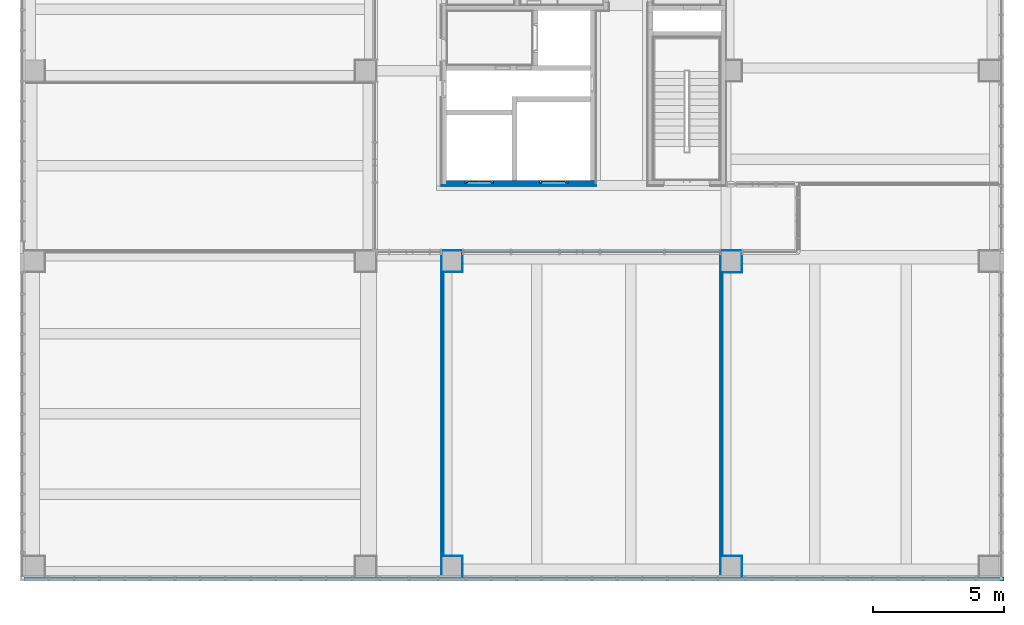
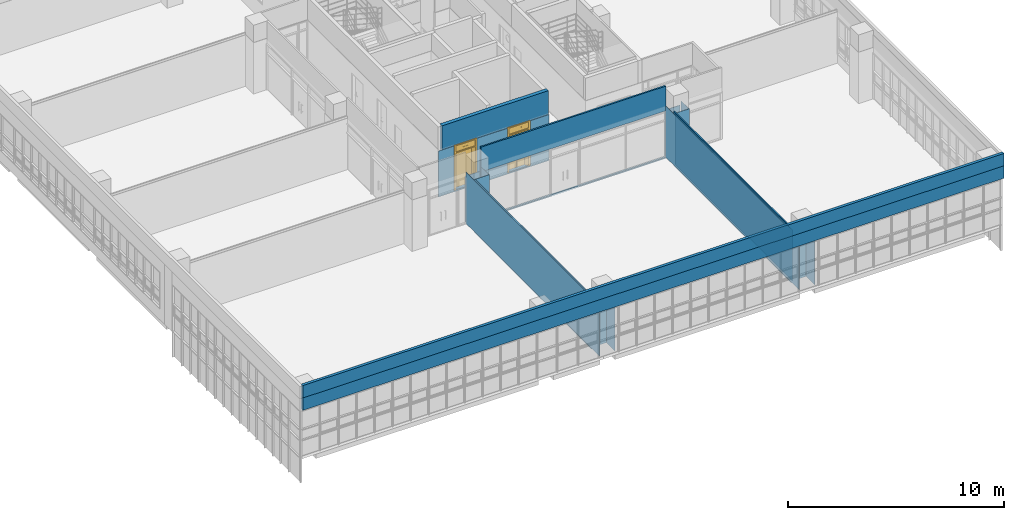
# One storey, part 44 of 81: 21 walls, 2 doors, 5 openings.
"""IFC2X3 building model written with IfcOpenShell, lengths in millimetres."""

from ifc_helpers import new_model, entity, si_unit, converted_unit, derived_unit, direction, frame, frame_2d, origin, place, context, subcontext, project, spatial, polyline, rectangle, extrude, clip, bounded_halfspace, faceted_brep, source, transform, mapped, material, material_list, layer, layer_set, layer_usage, type_object, type_shapes, element, fill, save


model = new_model("IFC2X3")

# Units and contexts
model_context = context("Model", 3, precision=0.01, world=origin(), true_north=direction((6.123031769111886e-17, 1.0)))
body_context = subcontext(model_context, "Body", "Model", "MODEL_VIEW")
ifc_project = project(units=[si_unit("LENGTHUNIT", "METRE", prefix="MILLI"), si_unit("AREAUNIT", "SQUARE_METRE"), si_unit("VOLUMEUNIT", "CUBIC_METRE"), converted_unit("PLANEANGLEUNIT", "DEGREE", entity("IfcRatioMeasure", 0.017453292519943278), si_unit("PLANEANGLEUNIT", "RADIAN"), dimensions=[0, 0, 0, 0, 0, 0, 0]), si_unit("MASSUNIT", "GRAM", prefix="KILO"), derived_unit("MASSDENSITYUNIT", [(si_unit("MASSUNIT", "GRAM", prefix="KILO"), 1), (si_unit("LENGTHUNIT", "METRE"), -3)]), derived_unit("MOMENTOFINERTIAUNIT", [(si_unit("LENGTHUNIT", "METRE"), 4)]), si_unit("TIMEUNIT", "SECOND"), si_unit("FREQUENCYUNIT", "HERTZ"), si_unit("THERMODYNAMICTEMPERATUREUNIT", "DEGREE_CELSIUS"), derived_unit("THERMALTRANSMITTANCEUNIT", [(si_unit("MASSUNIT", "GRAM", prefix="KILO"), 1), (si_unit("THERMODYNAMICTEMPERATUREUNIT", "KELVIN"), -1), (si_unit("TIMEUNIT", "SECOND"), -3)]), derived_unit("VOLUMETRICFLOWRATEUNIT", [(si_unit("LENGTHUNIT", "METRE"), 3), (si_unit("TIMEUNIT", "SECOND"), -1)]), derived_unit("MASSFLOWRATEUNIT", [(si_unit("MASSUNIT", "GRAM", prefix="KILO"), 1), (si_unit("TIMEUNIT", "SECOND"), -1)]), derived_unit("ROTATIONALFREQUENCYUNIT", [(si_unit("TIMEUNIT", "SECOND"), -1)]), si_unit("ELECTRICCURRENTUNIT", "AMPERE"), si_unit("ELECTRICVOLTAGEUNIT", "VOLT"), si_unit("POWERUNIT", "WATT"), si_unit("FORCEUNIT", "NEWTON", prefix="KILO"), si_unit("ILLUMINANCEUNIT", "LUX"), si_unit("LUMINOUSFLUXUNIT", "LUMEN"), si_unit("LUMINOUSINTENSITYUNIT", "CANDELA"), derived_unit("USERDEFINED", [(si_unit("MASSUNIT", "GRAM", prefix="KILO"), -1), (si_unit("LENGTHUNIT", "METRE"), -2), (si_unit("TIMEUNIT", "SECOND"), 3), (si_unit("LUMINOUSFLUXUNIT", "LUMEN"), 1)]), derived_unit("SOUNDPOWERUNIT", [(si_unit("MASSUNIT", "GRAM", prefix="KILO"), 1), (si_unit("LENGTHUNIT", "METRE"), 2), (si_unit("TIMEUNIT", "SECOND"), -3)]), derived_unit("SOUNDPRESSUREUNIT", [(si_unit("MASSUNIT", "GRAM", prefix="KILO"), 1), (si_unit("LENGTHUNIT", "METRE"), -1), (si_unit("TIMEUNIT", "SECOND"), -2)]), derived_unit("LINEARVELOCITYUNIT", [(si_unit("LENGTHUNIT", "METRE"), 1), (si_unit("TIMEUNIT", "SECOND"), -1)]), si_unit("PRESSUREUNIT", "PASCAL"), derived_unit("USERDEFINED", [(si_unit("LENGTHUNIT", "METRE"), -2), (si_unit("MASSUNIT", "GRAM", prefix="KILO"), 1), (si_unit("TIMEUNIT", "SECOND"), -2)]), derived_unit("LINEARFORCEUNIT", [(si_unit("MASSUNIT", "GRAM", prefix="KILO"), 1), (si_unit("LENGTHUNIT", "METRE"), 1), (si_unit("TIMEUNIT", "SECOND"), -2), (si_unit("LENGTHUNIT", "METRE"), -1)]), derived_unit("PLANARFORCEUNIT", [(si_unit("MASSUNIT", "GRAM", prefix="KILO"), 1), (si_unit("LENGTHUNIT", "METRE"), 1), (si_unit("TIMEUNIT", "SECOND"), -2), (si_unit("LENGTHUNIT", "METRE"), -2)])], contexts=[model_context])

# Site, building, storey
site_placement = place(None, frame((-14167.972527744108, -657.2125860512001, 0.0)))
site = spatial("IfcSite", under=ifc_project, at=site_placement, Name="Default", CompositionType="ELEMENT")
building_placement = place(site_placement, origin())
building = spatial("IfcBuilding", under=site, at=building_placement, Name="Sample Building", CompositionType="ELEMENT")
storey_placement = place(building_placement, frame((0.0, 0.0, 13400.0)))
storey = spatial("IfcBuildingStorey", under=building, at=storey_placement, Name="지상 4층", CompositionType="ELEMENT", Elevation=13400.00000000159)

# Wall, openings, doors
ifc_material_1 = material(Name="KBIMS-콘크리트")
ifc_layer_1 = layer(ifc_material_1, 200.0)
ifc_layer_set_1 = layer_set([ifc_layer_1], Name="기본 벽:WA111-철근콘크리트구조 벽 200mm_CW1")
ifc_layer_usage_1 = layer_usage(ifc_layer_set_1, "AXIS2", "NEGATIVE", 100.0)
wall_type_1 = type_object("IfcWallType", Name="기본 벽:WA111-철근콘크리트구조 벽 200mm_CW1", PredefinedType="STANDARD", material=ifc_layer_set_1)
wall_1_placement = place(storey_placement, frame((35967.97249113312, 15657.302947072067, -2.3000097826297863e-09), z_axis=(0.0, 0.0, 1.0), x_axis=(-1.0, 0.0, 0.0)))
wall_1 = element("IfcWallStandardCase", 1, at=wall_1_placement, inside=storey, type_object=wall_type_1, material=ifc_layer_usage_1, Name="기본 벽:WA111-철근콘크리트구조 벽 200mm_CW1", ObjectType="기본 벽:WA111-철근콘크리트구조 벽 200mm_CW1", context=body_context, shape_type="Clipping", body=[
    clip(extrude(rectangle(XDim=5700.008729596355, YDim=200.0, at=frame_2d((2850.0043647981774, 9.308109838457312e-13), x_axis=(-1.0, 0.0))), origin(), (0.0, 0.0, 1.0), 3950.0000000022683), bounded_halfspace(frame((200.0, -100.0, 3950.0), z_axis=(0.0, 0.0, -1.0), x_axis=(-1.0, 0.0, 0.0)), True, frame((200.0, -100.0, 3950.0), z_axis=(0.0, 0.0, -1.0), x_axis=(-1.0, 0.0, 0.0)), polyline([(0.0, 0.0), (60960.0, 0.0), (60960.0, 60960.0), (-1676402.660780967, 60960.0), (-1676402.660780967, -1.2041482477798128e-09), (0.0, 0.0)]))),
])
opening_1_placement = place(wall_1_placement, frame((2149.999909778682, 100.0, 80.0)))
opening_1 = element("IfcOpeningElement", 2, at=opening_1_placement, cuts=wall_1, Name="EE111-엘리베이터문(문):EE111-엘리베이터문(20인승)_1100x2550:1", ObjectType="Opening", context=body_context, shape_type="SweptSolid", body=[
    extrude(rectangle(XDim=2549.999999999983, YDim=1099.9999999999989, at=frame_2d((1274.9999999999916, 550.0000000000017), x_axis=(1.0, 0.0))), frame((0.0, 0.0, 0.0), z_axis=(0.0, -1.0, 0.0), x_axis=(0.0, 0.0, 1.0)), (0.0, 0.0, 1.0), 200.0),
])
opening_2_placement = place(wall_1_placement, frame((4999.923225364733, 100.0, 80.0)))
opening_2 = element("IfcOpeningElement", 3, at=opening_2_placement, cuts=wall_1, Name="EE111-엘리베이터문(문):EE111-엘리베이터문(20인승)_1100x2550:1", ObjectType="Opening", context=body_context, shape_type="SweptSolid", body=[
    extrude(rectangle(XDim=2549.999999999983, YDim=1099.9999999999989, at=frame_2d((1274.9999999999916, 550.0000000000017), x_axis=(1.0, 0.0))), frame((0.0, 0.0, 0.0), z_axis=(0.0, -1.0, 0.0), x_axis=(0.0, 0.0, 1.0)), (0.0, 0.0, 1.0), 200.0),
])
ifc_material_2 = material(Name="<Unnamed>")
ifc_material_list = material_list([ifc_material_2, ifc_material_2, ifc_material_2, ifc_material_2])
door_style = type_object("IfcDoorStyle", Name="EE111-엘리베이터문(문):EE111-엘리베이터문(20인승)_1100x2550", ConstructionType="NOTDEFINED", OperationType="DOUBLE_DOOR_SLIDING", ParameterTakesPrecedence=False, Sizeable=False, material=ifc_material_list)
shared_shape = source(origin(), body_context, "Body", "Brep", [
    faceted_brep([(-296.2736811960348, 220.43384628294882, 1175.0), (-313.5941892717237, 220.4338462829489, 1145.0), (-330.9146973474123, 220.43384628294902, 1175.0), (-296.2736811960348, 215.04269782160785, 1175.0), (-330.9146973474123, 215.0426978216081, 1175.0), (-313.5941892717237, 215.04269782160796, 1145.0)], [[[0, 1, 2]], [[3, 4, 5]], [[1, 0, 3, 5]], [[2, 1, 5, 4]], [[0, 2, 4, 3]]]),
    faceted_brep([(-330.9146973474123, 220.43384628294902, 1225.0), (-296.2736811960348, 220.43384628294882, 1225.0), (-296.2736811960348, 215.04269782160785, 1225.0), (-330.9146973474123, 215.04269782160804, 1225.0), (-313.5941892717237, 220.4338462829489, 1255.0), (-313.5941892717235, 215.04269782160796, 1255.0)], [[[0, 1, 2, 3]], [[4, 0, 3, 5]], [[1, 4, 5, 2]], [[2, 5, 3]], [[1, 0, 4]]]),
    faceted_brep([(-351.5567877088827, 215.0426978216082, 1277.0326998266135), (-275.63159083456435, 215.04269782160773, 1277.0326998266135), (-275.63159083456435, 215.04269782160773, 1122.967300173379), (-351.5567877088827, 215.0426978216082, 1122.967300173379), (-351.55678770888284, 200.0, 1277.0326998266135), (-351.55678770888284, 200.0, 1122.967300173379), (-275.6315908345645, 200.0, 1122.967300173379), (-275.6315908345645, 200.0, 1277.0326998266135)], [[[0, 1, 2, 3]], [[4, 5, 6, 7]], [[1, 0, 4, 7]], [[2, 1, 7, 6]], [[3, 2, 6, 5]], [[0, 3, 5, 4]]]),
    faceted_brep([(-60.0, 200.0, 2550.0), (-60.0, 240.0, 2550.0), (-60.0, 240.0, 0.0), (-60.0, 200.0, 0.0), (703.014298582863, 240.0, 2550.0), (703.014298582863, 240.0, 2500.0), (27.911234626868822, 240.0, 2500.0), (27.911234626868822, 240.0, 2150.0), (703.014298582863, 240.0, 2150.0), (703.014298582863, 240.0, 2100.0), (27.911234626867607, 240.0, 2100.0), (27.911234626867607, 240.0, 0.0), (978.5926496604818, 40.0, 0.0), (1078.5926496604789, 240.0, 0.0), (1160.0, 240.0, 0.0), (1160.0, 200.0, 0.0), (1100.0, 200.0, 0.0), (1000.0, 0.0, 0.0), (555.0, 0.0, 0.0), (555.0, 40.0, 0.0), (0.0, 200.0, 2550.0), (0.0, 200.0, 0.0), (100.0, 0.0, 2550.0), (100.0, 0.0, 0.0), (1000.0, 0.0, 2550.0), (545.0, 0.0, 0.0), (545.0, 0.0, 2100.0), (555.0, 0.0, 2100.0), (545.0, 40.0, 0.0), (545.0, 40.0, 2100.0), (555.0, 40.0, 2100.0), (1100.0, 200.0, 2550.0), (1160.0, 200.0, 2550.0), (1160.0, 240.0, 2550.0), (1078.5926496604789, 240.0, 2100.0), (1078.5926496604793, 240.0, 2150.0), (1078.5926496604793, 240.0, 2500.0), (978.5926496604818, 40.0, 2100.0), (127.91123462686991, 40.0, 0.0), (127.91123462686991, 40.0, 2100.0), (1078.5926496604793, 214.08728771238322, 2150.0), (1078.5926496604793, 214.08728771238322, 2500.0), (27.911234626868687, 214.0872877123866, 2500.0), (27.911234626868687, 214.0872877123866, 2150.0), (550.0, 214.08728771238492, 2370.0), (410.8272722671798, 214.08728771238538, 2370.0), (410.8272722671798, 214.08728771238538, 2300.0), (550.0, 214.08728771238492, 2300.0), (789.172727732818, 214.08728771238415, 2300.0), (789.172727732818, 214.08728771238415, 2370.0), (550.0, 208.4787281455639, 2370.0), (410.8272722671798, 208.47872814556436, 2370.0), (410.8272722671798, 208.47872814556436, 2300.0), (789.172727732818, 208.47872814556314, 2300.0), (789.172727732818, 208.47872814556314, 2370.0), (550.0, 208.4787281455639, 2300.0)], [[[0, 1, 2, 3]], [[2, 1, 4, 5, 6, 7, 8, 9, 10, 11]], [[12, 13, 14, 15, 16, 17, 18, 19]], [[20, 0, 3, 21]], [[22, 20, 21, 23]], [[24, 22, 23, 25, 26, 27, 18, 17]], [[25, 28, 29, 26]], [[19, 18, 27, 30]], [[31, 24, 17, 16]], [[32, 31, 16, 15]], [[33, 32, 15, 14]], [[4, 33, 14, 13, 34, 9, 8, 35, 36, 5]], [[13, 12, 37, 34]], [[38, 11, 10, 39]], [[38, 39, 29, 28]], [[37, 12, 19, 30]], [[1, 0, 20, 22, 24, 31, 32, 33, 4]], [[40, 41, 36, 35]], [[41, 42, 6, 5, 36]], [[42, 43, 7, 6]], [[43, 42, 41, 40], [44, 45, 46, 47, 48, 49]], [[50, 51, 45, 44]], [[51, 52, 46, 45]], [[53, 54, 49, 48]], [[54, 50, 44, 49]], [[50, 54, 53, 55, 52, 51]], [[10, 9, 34, 37, 30, 27, 26, 29, 39]], [[43, 40, 35, 8, 7]], [[52, 55, 47, 46]], [[55, 53, 48, 47]], [[21, 3, 2, 11, 38, 28, 25, 23]]]),
])
type_shapes(door_style, [shared_shape])
door_1_placement = place(opening_2_placement, frame((-1100.0, -200.0, 2.2992026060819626e-09)))
door_1 = element("IfcDoor", 4, at=door_1_placement, inside=storey, type_object=door_style, material=ifc_material_2, Name="EE111-엘리베이터문(문):EE111-엘리베이터문(20인승)_1100x2550", ObjectType="EE111-엘리베이터문(문):EE111-엘리베이터문(20인승)_1100x2550", OverallHeight=2549.999999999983, OverallWidth=1100.0000000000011, context=body_context, shape_type="MappedRepresentation", body=[
    mapped(shared_shape, transform((0.0, 0.0, 0.0), scale=1.0)),
])
fill(opening_2, door_1)
door_2_placement = place(opening_1_placement, frame((-1100.0, -200.0, 2.2992026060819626e-09)))
door_2 = element("IfcDoor", 5, at=door_2_placement, inside=storey, type_object=door_style, material=ifc_material_2, Name="EE111-엘리베이터문(문):EE111-엘리베이터문(20인승)_1100x2550", ObjectType="EE111-엘리베이터문(문):EE111-엘리베이터문(20인승)_1100x2550", OverallHeight=2549.999999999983, OverallWidth=1100.0000000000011, context=body_context, shape_type="MappedRepresentation", body=[
    mapped(shared_shape, transform((0.0, 0.0, 0.0), scale=1.0)),
])
fill(opening_1, door_2)

# Walls
ifc_material_3 = material(Name="WA240-ALC블록벽")
ifc_layer_2 = layer(ifc_material_3, 35.0)
ifc_material_4 = material(Name="WA795-(STEEL)BRACKET")
ifc_layer_3 = layer(ifc_material_4, 65.0)
ifc_material_5 = material(Name="WA821-압출스티로폼 벽 (본드붙임, 비중0.03) 50mm")
ifc_layer_4 = layer(ifc_material_5, 50.0)
ifc_layer_set_2 = layer_set([ifc_layer_2, ifc_layer_3, ifc_layer_4], Name="기본 벽:A2-22-02A-압출스티로폼, BRACKET(STEEL), ALC블록 (150mm)")
ifc_layer_usage_2 = layer_usage(ifc_layer_set_2, "AXIS2", "POSITIVE", -75.0)
wall_type_2 = type_object("IfcWallType", Name="기본 벽:A2-22-02A-압출스티로폼, BRACKET(STEEL), ALC블록 (150mm)", PredefinedType="STANDARD", material=ifc_layer_set_2)
wall_2_placement = place(storey_placement, frame((14067.955105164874, 482.2122951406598, 3400.0)))
element("IfcWallStandardCase", 6, at=wall_2_placement, inside=storey, type_object=wall_type_2, material=ifc_layer_usage_2, Name="기본 벽:A2-22-02A-압출스티로폼, BRACKET(STEEL), ALC블록 (150mm)", ObjectType="기본 벽:A2-22-02A-압출스티로폼, BRACKET(STEEL), ALC블록 (150mm)", context=body_context, shape_type="SweptSolid", body=[
    extrude(rectangle(XDim=37550.008723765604, YDim=150.0, at=frame_2d((18775.004361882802, -1.4210854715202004e-14), x_axis=(-1.0, 0.0))), origin(), (0.0, 0.0, 1.0), 700.0000000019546),
])
ifc_material_6 = material(Name="KBIMS-DRY WALL")
ifc_layer_5 = layer(ifc_material_6, 12.5)
ifc_material_7 = material(Name="KBIMS-경량철골벽틀")
ifc_layer_6 = layer(ifc_material_7, 50.0)
ifc_layer_set_3 = layer_set([ifc_layer_5, ifc_layer_6], Name="기본 벽:WA731-DRY WALL(C50, GS12.5mm) (1겹한면, GW50mm) 62.5mm")
ifc_layer_usage_3 = layer_usage(ifc_layer_set_3, "AXIS2", "NEGATIVE", 31.250000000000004)
wall_type_3 = type_object("IfcWallType", Name="기본 벽:WA731-DRY WALL(C50, GS12.5mm) (1겹한면, GW50mm) 62.5mm", PredefinedType="STANDARD", material=ifc_layer_set_3)
wall_3_placement = place(storey_placement, frame((30099.205114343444, 12257.212307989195, -2.3000097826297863e-09), z_axis=(0.0, 0.0, 1.0), x_axis=(0.0, -1.0, 0.0)))
element("IfcWallStandardCase", 7, at=wall_3_placement, inside=storey, type_object=wall_type_3, material=ifc_layer_usage_3, Name="기본 벽:WA731-DRY WALL(C50, GS12.5mm) (1겹한면, GW50mm) 62.5mm", ObjectType="기본 벽:WA731-DRY WALL(C50, GS12.5mm) (1겹한면, GW50mm) 62.5mm", context=body_context, shape_type="SweptSolid", body=[
    extrude(rectangle(XDim=10900.000421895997, YDim=62.49999999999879, at=frame_2d((5450.000210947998, 2.1653789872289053e-12), x_axis=(-1.0, 0.0))), origin(), (0.0, 0.0, 1.0), 2980.000000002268),
])
ifc_layer_usage_4 = layer_usage(ifc_layer_set_3, "AXIS2", "NEGATIVE", 31.250000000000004)
wall_4_placement = place(storey_placement, frame((40799.222509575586, 12257.212307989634, -2.297844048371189e-09), z_axis=(0.0, 0.0, 1.0), x_axis=(0.0, -1.0, 0.0)))
element("IfcWallStandardCase", 8, at=wall_4_placement, inside=storey, type_object=wall_type_3, material=ifc_layer_usage_4, Name="기본 벽:WA731-DRY WALL(C50, GS12.5mm) (1겹한면, GW50mm) 62.5mm", ObjectType="기본 벽:WA731-DRY WALL(C50, GS12.5mm) (1겹한면, GW50mm) 62.5mm", context=body_context, shape_type="SweptSolid", body=[
    extrude(rectangle(XDim=10900.000421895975, YDim=62.50000000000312, at=frame_2d((5450.000210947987, -4.330757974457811e-12), x_axis=(-1.0, 0.0))), origin(), (0.0, 0.0, 1.0), 3100.000000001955),
])
ifc_material_8 = material(Name="WA785-금속외장패널")
ifc_layer_7 = layer(ifc_material_8, 25.0)
ifc_material_9 = material(Name="WA793-금속 긴결철물 벽")
ifc_layer_8 = layer(ifc_material_9, 75.0)
ifc_layer_9 = layer(ifc_material_5, 50.0)
ifc_layer_set_4 = layer_set([ifc_layer_7, ifc_layer_8, ifc_layer_9], Name="기본 벽:A2-26-01A-압출스티로폼, 금속 긴결철물, 금속외장패널 (150mm)")
ifc_layer_usage_5 = layer_usage(ifc_layer_set_4, "AXIS2", "POSITIVE", -75.0)
wall_type_4 = type_object("IfcWallType", Name="기본 벽:A2-26-01A-압출스티로폼, 금속 긴결철물, 금속외장패널 (150mm)", PredefinedType="STANDARD", material=ifc_layer_set_4)
wall_5_placement = place(storey_placement, frame((14067.955105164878, 482.2122951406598, 2700.0)))
element("IfcWallStandardCase", 9, at=wall_5_placement, inside=storey, type_object=wall_type_4, material=ifc_layer_usage_5, Name="기본 벽:A2-26-01A-압출스티로폼, 금속 긴결철물, 금속외장패널 (150mm)", ObjectType="기본 벽:A2-26-01A-압출스티로폼, 금속 긴결철물, 금속외장패널 (150mm)", context=body_context, shape_type="SweptSolid", body=[
    extrude(rectangle(XDim=37550.008723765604, YDim=150.0, at=frame_2d((18775.004361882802, -1.4210854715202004e-14), x_axis=(-1.0, 0.0))), origin(), (0.0, 0.0, 1.0), 700.0000000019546),
])

# Wall, opening
ifc_material_10 = material(Name="KBIMS-시멘트 벽돌")
ifc_layer_10 = layer(ifc_material_10, 90.0)
ifc_layer_set_5 = layer_set([ifc_layer_10], Name="기본 벽:WA211-시멘트벽돌(일반) 벽 (0.5B) 90mm")
ifc_layer_usage_6 = layer_usage(ifc_layer_set_5, "AXIS2", "NEGATIVE", 45.0)
wall_type_5 = type_object("IfcWallType", Name="기본 벽:WA211-시멘트벽돌(일반) 벽 (0.5B) 90mm", PredefinedType="STANDARD", material=ifc_layer_set_5)
wall_6_placement = place(storey_placement, frame((30867.972482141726, 13012.21261703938, 0.0)))
wall_6 = element("IfcWallStandardCase", 10, at=wall_6_placement, inside=storey, type_object=wall_type_5, material=ifc_layer_usage_6, Name="기본 벽:WA211-시멘트벽돌(일반) 벽 (0.5B) 90mm", ObjectType="기본 벽:WA211-시멘트벽돌(일반) 벽 (0.5B) 90mm", context=body_context, shape_type="SweptSolid", body=[
    extrude(rectangle(XDim=9900.00002743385, YDim=89.99999999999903, at=frame_2d((4950.000013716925, 1.552535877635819e-12), x_axis=(-1.0, 0.0))), origin(), (0.0, 0.0, 1.0), 4100.0000000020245),
])
opening_3_placement = place(wall_6_placement, origin())
element("IfcOpeningElement", 11, at=opening_3_placement, cuts=wall_6, Name="기본 벽:WA211-시멘트벽돌(일반) 벽 (0.5B) 90mm", ObjectType="Opening", context=body_context, shape_type="SweptSolid", body=[
    extrude(rectangle(XDim=2619.9999999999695, YDim=9899.999999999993, at=frame_2d((1.1368683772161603e-12, 0.0), x_axis=(1.0, 0.0))), frame((4950.0, -197.39999999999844, 1390.0), z_axis=(0.0, 1.0, 0.0), x_axis=(0.0, 0.0, 1.0)), (0.0, 0.0, 1.0), 394.79999999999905),
])

# Walls
ifc_material_11 = material(Name="WA611-수성페인트 (내부) 벽 (3회)")
ifc_layer_11 = layer(ifc_material_11, 1.0)
ifc_material_12 = material(Name="WA551-시멘트모르타르 (내부) 벽 18mm")
ifc_layer_12 = layer(ifc_material_12, 16.0)
ifc_material_13 = material(Name="WA555-콘크리트면정리 벽 (내부)")
ifc_layer_13 = layer(ifc_material_13, 1.0)
ifc_layer_set_6 = layer_set([ifc_layer_11, ifc_layer_12, ifc_layer_13], Name="기본 벽:A1-32-06A-콘크리트면정리, 시멘트모르타르(미장용), 수성페인트(내부) (18mm)")
ifc_layer_usage_7 = layer_usage(ifc_layer_set_6, "AXIS2", "POSITIVE", -9.000000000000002)
wall_type_6 = type_object("IfcWallType", Name="기본 벽:A1-32-06A-콘크리트면정리, 시멘트모르타르(미장용), 수성페인트(내부) (18mm)", PredefinedType="STANDARD", material=ifc_layer_set_6)
wall_7_placement = place(storey_placement, frame((30058.972482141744, 12967.212307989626, 80.0), z_axis=(0.0, 0.0, 1.0), x_axis=(0.0, -1.0, 0.0)))
element("IfcWallStandardCase", 12, at=wall_7_placement, inside=storey, type_object=wall_type_6, material=ifc_layer_usage_7, Name="기본 벽:A1-32-06A-콘크리트면정리, 시멘트모르타르(미장용), 수성페인트(내부) (18mm)", ObjectType="기본 벽:A1-32-06A-콘크리트면정리, 시멘트모르타르(미장용), 수성페인트(내부) (18mm)", context=body_context, shape_type="SweptSolid", body=[
    extrude(rectangle(XDim=12410.000421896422, YDim=18.000000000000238, at=frame_2d((6205.000210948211, -2.161826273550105e-12), x_axis=(-1.0, 0.0))), origin(), (0.0, 0.0, 1.0), 2899.999999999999),
])
ifc_layer_usage_8 = layer_usage(ifc_layer_set_6, "AXIS2", "POSITIVE", -9.000000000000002)
wall_8_placement = place(storey_placement, frame((30130.472463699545, 12248.211898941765, 80.0)))
element("IfcWallStandardCase", 13, at=wall_8_placement, inside=storey, type_object=wall_type_6, material=ifc_layer_usage_8, Name="기본 벽:A1-32-06A-콘크리트면정리, 시멘트모르타르(미장용), 수성페인트(내부) (18mm)", ObjectType="기본 벽:A1-32-06A-콘크리트면정리, 시멘트모르타르(미장용), 수성페인트(내부) (18mm)", context=body_context, shape_type="SweptSolid", body=[
    extrude(rectangle(XDim=755.5000184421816, YDim=18.000000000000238, at=frame_2d((377.7500092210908, 0.0), x_axis=(-1.0, 0.0))), origin(), (0.0, 0.0, 1.0), 2899.999999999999),
])
ifc_layer_usage_9 = layer_usage(ifc_layer_set_6, "AXIS2", "POSITIVE", -9.000000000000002)
wall_9_placement = place(storey_placement, frame((30876.972482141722, 12257.211898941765, 80.0), z_axis=(0.0, 0.0, 1.0), x_axis=(0.0, 1.0, 0.0)))
element("IfcWallStandardCase", 14, at=wall_9_placement, inside=storey, type_object=wall_type_6, material=ifc_layer_usage_9, Name="기본 벽:A1-32-06A-콘크리트면정리, 시멘트모르타르(미장용), 수성페인트(내부) (18mm)", ObjectType="기본 벽:A1-32-06A-콘크리트면정리, 시멘트모르타르(미장용), 수성페인트(내부) (18mm)", context=body_context, shape_type="SweptSolid", body=[
    extrude(rectangle(XDim=710.000718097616, YDim=18.00000000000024, at=frame_2d((355.000359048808, -2.1662671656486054e-12), x_axis=(-1.0, 0.0))), origin(), (0.0, 0.0, 1.0), 2899.999999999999),
])
ifc_layer_usage_10 = layer_usage(ifc_layer_set_6, "AXIS2", "POSITIVE", -9.000000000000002)
wall_10_placement = place(storey_placement, frame((40758.97250957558, 12967.212617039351, 80.0), z_axis=(0.0, 0.0, 1.0), x_axis=(0.0, -1.0, 0.0)))
element("IfcWallStandardCase", 15, at=wall_10_placement, inside=storey, type_object=wall_type_6, material=ifc_layer_usage_10, Name="기본 벽:A1-32-06A-콘크리트면정리, 시멘트모르타르(미장용), 수성페인트(내부) (18mm)", ObjectType="기본 벽:A1-32-06A-콘크리트면정리, 시멘트모르타르(미장용), 수성페인트(내부) (18mm)", context=body_context, shape_type="SweptSolid", body=[
    extrude(rectangle(XDim=12392.000421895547, YDim=17.999999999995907, at=frame_2d((6196.000210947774, 1.1235457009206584e-12), x_axis=(-1.0, 0.0))), origin(), (0.0, 0.0, 1.0), 2899.999999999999),
])
ifc_layer_usage_11 = layer_usage(ifc_layer_set_6, "AXIS2", "POSITIVE", -9.000000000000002)
wall_11_placement = place(storey_placement, frame((30876.95511434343, 557.2118860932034, 80.0), z_axis=(0.0, 0.0, 1.0), x_axis=(0.0, 1.0, 0.0)))
element("IfcWallStandardCase", 16, at=wall_11_placement, inside=storey, type_object=wall_type_6, material=ifc_layer_usage_11, Name="기본 벽:A1-32-06A-콘크리트면정리, 시멘트모르타르(미장용), 수성페인트(내부) (18mm)", ObjectType="기본 벽:A1-32-06A-콘크리트면정리, 시멘트모르타르(미장용), 수성페인트(내부) (18mm)", context=body_context, shape_type="SweptSolid", body=[
    extrude(rectangle(XDim=817.9995909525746, YDim=18.00000000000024, at=frame_2d((408.9997954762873, -2.1662671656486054e-12), x_axis=(-1.0, 0.0))), origin(), (0.0, 0.0, 1.0), 2899.999999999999),
])
ifc_layer_usage_12 = layer_usage(ifc_layer_set_6, "AXIS2", "POSITIVE", -9.000000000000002)
wall_12_placement = place(storey_placement, frame((30867.95511434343, 1366.211477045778, 80.0), z_axis=(0.0, 0.0, 1.0), x_axis=(-1.0, 0.0, 0.0)))
element("IfcWallStandardCase", 17, at=wall_12_placement, inside=storey, type_object=wall_type_6, material=ifc_layer_usage_12, Name="기본 벽:A1-32-06A-콘크리트면정리, 시멘트모르타르(미장용), 수성페인트(내부) (18mm)", ObjectType="기본 벽:A1-32-06A-콘크리트면정리, 시멘트모르타르(미장용), 수성페인트(내부) (18mm)", context=body_context, shape_type="SweptSolid", body=[
    extrude(rectangle(XDim=737.4826506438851, YDim=17.999999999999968, at=frame_2d((368.74132532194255, 1.3500311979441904e-13), x_axis=(-1.0, 0.0))), origin(), (0.0, 0.0, 1.0), 2899.999999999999),
])
ifc_layer_usage_13 = layer_usage(ifc_layer_set_6, "AXIS2", "POSITIVE", -9.000000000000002)
wall_13_placement = place(storey_placement, frame((30139.47246369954, 1375.2114770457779, 80.0), z_axis=(0.0, 0.0, 1.0), x_axis=(0.0, 1.0, 0.0)))
element("IfcWallStandardCase", 18, at=wall_13_placement, inside=storey, type_object=wall_type_6, material=ifc_layer_usage_13, Name="기본 벽:A1-32-06A-콘크리트면정리, 시멘트모르타르(미장용), 수성페인트(내부) (18mm)", ObjectType="기본 벽:A1-32-06A-콘크리트면정리, 시멘트모르타르(미장용), 수성페인트(내부) (18mm)", context=body_context, shape_type="SweptSolid", body=[
    extrude(rectangle(XDim=10864.000421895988, YDim=18.00000000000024, at=frame_2d((5432.000210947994, -2.1662671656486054e-12), x_axis=(-1.0, 0.0))), origin(), (0.0, 0.0, 1.0), 2899.999999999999),
])
ifc_layer_usage_14 = layer_usage(ifc_layer_set_6, "AXIS2", "NEGATIVE", 9.000000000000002)
wall_14_placement = place(storey_placement, frame((40839.45514177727, 1357.2117860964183, 80.0), z_axis=(0.0, 0.0, 1.0), x_axis=(0.0, 1.0, 0.0)))
element("IfcWallStandardCase", 19, at=wall_14_placement, inside=storey, type_object=wall_type_6, material=ifc_layer_usage_14, Name="기본 벽:A1-32-06A-콘크리트면정리, 시멘트모르타르(미장용), 수성페인트(내부) (18mm)", ObjectType="기본 벽:A1-32-06A-콘크리트면정리, 시멘트모르타르(미장용), 수성페인트(내부) (18mm)", context=body_context, shape_type="SweptSolid", body=[
    extrude(rectangle(XDim=10882.000112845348, YDim=17.999999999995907, at=frame_2d((5441.000056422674, 1.20525811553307e-12), x_axis=(-1.0, 0.0))), origin(), (0.0, 0.0, 1.0), 2899.999999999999),
])
ifc_layer_usage_15 = layer_usage(ifc_layer_set_6, "AXIS2", "NEGATIVE", 9.000000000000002)
wall_15_placement = place(storey_placement, frame((40848.45514177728, 12230.211898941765, 80.0)))
element("IfcWallStandardCase", 20, at=wall_15_placement, inside=storey, type_object=wall_type_6, material=ifc_layer_usage_15, Name="기본 벽:A1-32-06A-콘크리트면정리, 시멘트모르타르(미장용), 수성페인트(내부) (18mm)", ObjectType="기본 벽:A1-32-06A-콘크리트면정리, 시멘트모르타르(미장용), 수성페인트(내부) (18mm)", context=body_context, shape_type="SweptSolid", body=[
    extrude(rectangle(XDim=737.499994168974, YDim=18.000000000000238, at=frame_2d((368.749997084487, 0.0), x_axis=(-1.0, 0.0))), origin(), (0.0, 0.0, 1.0), 2899.999999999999),
])
ifc_layer_usage_16 = layer_usage(ifc_layer_set_6, "AXIS2", "NEGATIVE", 9.000000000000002)
wall_16_placement = place(storey_placement, frame((41576.955135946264, 12239.211898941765, 80.0), z_axis=(0.0, 0.0, 1.0), x_axis=(0.0, 1.0, 0.0)))
element("IfcWallStandardCase", 21, at=wall_16_placement, inside=storey, type_object=wall_type_6, material=ifc_layer_usage_16, Name="기본 벽:A1-32-06A-콘크리트면정리, 시멘트모르타르(미장용), 수성페인트(내부) (18mm)", ObjectType="기본 벽:A1-32-06A-콘크리트면정리, 시멘트모르타르(미장용), 수성페인트(내부) (18mm)", context=body_context, shape_type="SweptSolid", body=[
    extrude(rectangle(XDim=728.0004841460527, YDim=17.999999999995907, at=frame_2d((364.00024207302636, 0.0), x_axis=(-1.0, 0.0))), origin(), (0.0, 0.0, 1.0), 2899.999999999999),
])
ifc_layer_usage_17 = layer_usage(ifc_layer_set_6, "AXIS2", "NEGATIVE", 9.000000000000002)
wall_17_placement = place(storey_placement, frame((41576.95514177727, 557.2122951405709, 80.0), z_axis=(0.0, 0.0, 1.0), x_axis=(0.0, 1.0, 0.0)))
element("IfcWallStandardCase", 22, at=wall_17_placement, inside=storey, type_object=wall_type_6, material=ifc_layer_usage_17, Name="기본 벽:A1-32-06A-콘크리트면정리, 시멘트모르타르(미장용), 수성페인트(내부) (18mm)", ObjectType="기본 벽:A1-32-06A-콘크리트면정리, 시멘트모르타르(미장용), 수성페인트(내부) (18mm)", context=body_context, shape_type="SweptSolid", body=[
    extrude(rectangle(XDim=817.999490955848, YDim=17.999999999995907, at=frame_2d((408.9997454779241, 0.0), x_axis=(-1.0, 0.0))), origin(), (0.0, 0.0, 1.0), 2899.999999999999),
])
ifc_layer_usage_18 = layer_usage(ifc_layer_set_6, "AXIS2", "NEGATIVE", 9.000000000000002)
wall_18_placement = place(storey_placement, frame((41567.95514177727, 1366.211786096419, 80.0), z_axis=(0.0, 0.0, 1.0), x_axis=(-1.0, 0.0, 0.0)))
element("IfcWallStandardCase", 23, at=wall_18_placement, inside=storey, type_object=wall_type_6, material=ifc_layer_usage_18, Name="기본 벽:A1-32-06A-콘크리트면정리, 시멘트모르타르(미장용), 수성페인트(내부) (18mm)", ObjectType="기본 벽:A1-32-06A-콘크리트면정리, 시멘트모르타르(미장용), 수성페인트(내부) (18mm)", context=body_context, shape_type="SweptSolid", body=[
    extrude(rectangle(XDim=719.500000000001, YDim=17.999999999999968, at=frame_2d((359.7500000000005, 1.3500311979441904e-13), x_axis=(-1.0, 0.0))), origin(), (0.0, 0.0, 1.0), 2899.999999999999),
])

# Wall, openings
ifc_layer_14 = layer(ifc_material_11, 1.0)
ifc_material_14 = material(Name="WA551-시멘트모르타르 (내부) 벽 24mm")
ifc_layer_15 = layer(ifc_material_14, 21.0)
ifc_material_15 = material(Name="WA961-바닥방수 연장")
ifc_layer_16 = layer(ifc_material_15, 1.0)
ifc_layer_17 = layer(ifc_material_13, 1.0)
ifc_layer_set_7 = layer_set([ifc_layer_14, ifc_layer_15, ifc_layer_16, ifc_layer_17], Name="기본 벽:A1-32-07A-콘크리트면정리, 바닥방수연장, 시멘트모르타르(미장용), 수성페인트(내부) (24mm)")
ifc_layer_usage_19 = layer_usage(ifc_layer_set_7, "AXIS2", "NEGATIVE", 12.000000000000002)
wall_type_7 = type_object("IfcWallType", Name="기본 벽:A1-32-07A-콘크리트면정리, 바닥방수연장, 시멘트모르타르(미장용), 수성페인트(내부) (24mm)", PredefinedType="STANDARD", material=ifc_layer_set_7)
wall_19_placement = place(storey_placement, frame((35991.9724911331, 15545.302947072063, -2.297844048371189e-09), z_axis=(0.0, 0.0, 1.0), x_axis=(-1.0, 0.0, 0.0)))
wall_19 = element("IfcWallStandardCase", 24, at=wall_19_placement, inside=storey, type_object=wall_type_7, material=ifc_layer_usage_19, Name="기본 벽:A1-32-07A-콘크리트면정리, 바닥방수연장, 시멘트모르타르(미장용), 수성페인트(내부) (24mm)", ObjectType="기본 벽:A1-32-07A-콘크리트면정리, 바닥방수연장, 시멘트모르타르(미장용), 수성페인트(내부) (24mm)", context=body_context, shape_type="SweptSolid", body=[
    extrude(rectangle(XDim=5924.0087295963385, YDim=24.00000000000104, at=frame_2d((2962.0043647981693, -1.2025935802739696e-12), x_axis=(-1.0, 0.0))), origin(), (0.0, 0.0, 1.0), 2599.999999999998),
])
opening_4_placement = place(wall_19_placement, origin())
element("IfcOpeningElement", 25, at=opening_4_placement, cuts=wall_19, Name="기본 벽:A1-32-07A-콘크리트면정리, 바닥방수연장, 시멘트모르타르(미장용), 수성페인트(내부) (24mm)", ObjectType="Opening", context=body_context, shape_type="SweptSolid", body=[
    extrude(rectangle(XDim=2549.999999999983, YDim=1100.0000000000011, at=frame_2d((0.0, 0.0), x_axis=(0.0, 1.0))), frame((1623.9999097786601, -1736.0, 1355.0), z_axis=(0.0, 1.0, 0.0), x_axis=(-1.0, 0.0, 0.0)), (0.0, 0.0, 1.0), 3048.0),
])
opening_5_placement = place(wall_19_placement, origin())
element("IfcOpeningElement", 26, at=opening_5_placement, cuts=wall_19, Name="기본 벽:A1-32-07A-콘크리트면정리, 바닥방수연장, 시멘트모르타르(미장용), 수성페인트(내부) (24mm)", ObjectType="Opening", context=body_context, shape_type="SweptSolid", body=[
    extrude(rectangle(XDim=2549.999999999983, YDim=1100.0000000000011, at=frame_2d((0.0, 0.0), x_axis=(0.0, 1.0))), frame((4473.923225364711, -1736.0, 1355.0), z_axis=(0.0, 1.0, 0.0), x_axis=(-1.0, 0.0, 0.0)), (0.0, 0.0, 1.0), 3048.0),
])

# Walls
ifc_layer_usage_20 = layer_usage(ifc_layer_set_7, "AXIS2", "NEGATIVE", 12.000000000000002)
wall_20_placement = place(storey_placement, frame((30067.97250957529, 13069.211898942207, 80.0)))
element("IfcWallStandardCase", 27, at=wall_20_placement, inside=storey, type_object=wall_type_7, material=ifc_layer_usage_20, Name="기본 벽:A1-32-07A-콘크리트면정리, 바닥방수연장, 시멘트모르타르(미장용), 수성페인트(내부) (24mm)", ObjectType="기본 벽:A1-32-07A-콘크리트면정리, 바닥방수연장, 시멘트모르타르(미장용), 수성페인트(내부) (24mm)", context=body_context, shape_type="SweptSolid", body=[
    extrude(rectangle(XDim=800.0, YDim=24.00000000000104, at=frame_2d((400.0, -1.0835776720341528e-12), x_axis=(-1.0, 0.0))), origin(), (0.0, 0.0, 1.0), 2599.999999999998),
])
ifc_layer_usage_21 = layer_usage(ifc_layer_set_7, "AXIS2", "NEGATIVE", 12.000000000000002)
wall_21_placement = place(storey_placement, frame((40767.97250957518, 13069.211898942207, 80.0)))
element("IfcWallStandardCase", 28, at=wall_21_placement, inside=storey, type_object=wall_type_7, material=ifc_layer_usage_21, Name="기본 벽:A1-32-07A-콘크리트면정리, 바닥방수연장, 시멘트모르타르(미장용), 수성페인트(내부) (24mm)", ObjectType="기본 벽:A1-32-07A-콘크리트면정리, 바닥방수연장, 시멘트모르타르(미장용), 수성페인트(내부) (24mm)", context=body_context, shape_type="SweptSolid", body=[
    extrude(rectangle(XDim=800.0000000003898, YDim=24.00000000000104, at=frame_2d((400.0000000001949, -1.0835776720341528e-12), x_axis=(-1.0, 0.0))), origin(), (0.0, 0.0, 1.0), 2599.999999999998),
])

save(model, "model.ifc")
